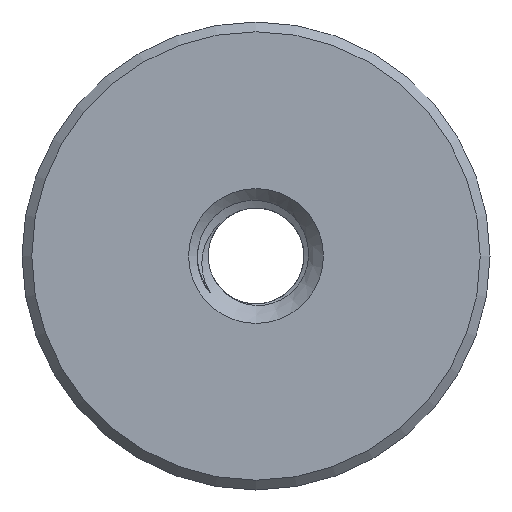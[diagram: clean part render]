
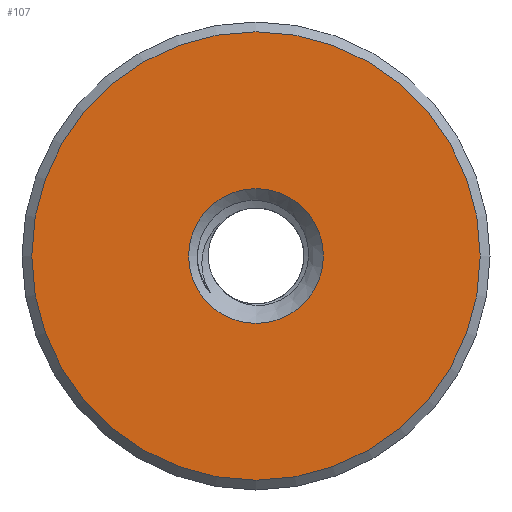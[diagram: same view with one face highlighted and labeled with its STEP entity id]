
A CAD part, left-side view. The second image highlights one B-rep face of the part: STEP entity #107.
In plain terms, the highlighted planar face has unit normal (-1, 0, 0).
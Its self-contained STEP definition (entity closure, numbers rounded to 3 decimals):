
#107=ADVANCED_FACE('',(#3039,#3041),#3043,.T.);
#3039=FACE_BOUND('',#3040,.T.);
#3040=EDGE_LOOP('',(#3518));
#3041=FACE_BOUND('',#3042,.T.);
#3042=EDGE_LOOP('',(#3519));
#3043=PLANE('',#3044);
#3044=AXIS2_PLACEMENT_3D('',#3045,#3046,#3047);
#3045=CARTESIAN_POINT('',(0.,0.,0.));
#3046=DIRECTION('',(-1.,0.,0.));
#3047=DIRECTION('',(0.,0.,-1.));
#3518=ORIENTED_EDGE('',*,*,#3571,.T.);
#3519=ORIENTED_EDGE('',*,*,#3559,.T.);
#3559=EDGE_CURVE('',#3602,#3602,#3603,.F.);
#3571=EDGE_CURVE('',#3622,#3622,#3623,.T.);
#3602=VERTEX_POINT('',#3924);
#3603=CIRCLE('',#3925,3.459);
#3622=VERTEX_POINT('',#4896);
#3623=CIRCLE('',#4897,11.5);
#3924=CARTESIAN_POINT('',(0.,0.,-3.459));
#3925=AXIS2_PLACEMENT_3D('',#3926,#3927,#3928);
#3926=CARTESIAN_POINT('',(0.,0.,0.));
#3927=DIRECTION('',(-1.,0.,0.));
#3928=DIRECTION('',(0.,0.,-1.));
#4896=CARTESIAN_POINT('',(0.,0.,-11.5));
#4897=AXIS2_PLACEMENT_3D('',#4898,#4899,#4900);
#4898=CARTESIAN_POINT('',(0.,0.,0.));
#4899=DIRECTION('',(-1.,0.,0.));
#4900=DIRECTION('',(0.,0.,-1.));
